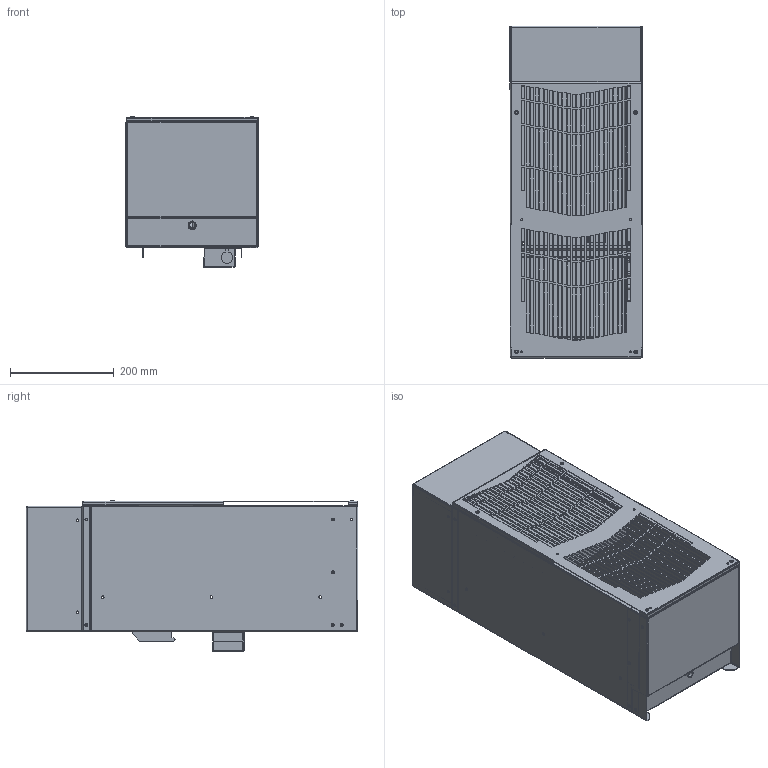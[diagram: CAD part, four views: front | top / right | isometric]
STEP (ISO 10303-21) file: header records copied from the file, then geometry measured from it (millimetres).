
FILE_DESCRIPTION (( 'STEP AP203' ), '1' );
FILE_NAME ('n160246g05x.STEP', '2017-06-14T15:47:41', ( '' ), ( '' ), 'SwSTEP 2.0', 'SolidWorks 2014', '' );
FILE_SCHEMA (( 'CONFIG_CONTROL_DESIGN' ));
Length unit declared in the file: inch
Products named in the file (22): 89112104; n160246g05x; 20-1037-00; 89112103; 89105056; 89109504; 89087520; 10-1044-12; 89112106; 89109505; 89112102; 89112105; 89112099; 89095669_89095669; 89050853; H60632004EB; 10-1015-208_PEM CLSS-024-1 ---N; 89135056; 89112098; 89112101; 89119932; 89105431
Assembly tree (32 placements, depth 3):
  n160246g05x
    89112101
      89112102
      89095669_89095669
      10-1015-208_PEM CLSS-024-1 ---N  x3
    89112103
      89112104
      89095669_89095669
      10-1015-208_PEM CLSS-024-1 ---N  x3
    89109505
      89109504
      10-1044-12
    89112098
      89112099
      H60632004EB  x4
    89105431
    20-1037-00
    89105056
    89087520
    89112105
      89112106
      89095669_89095669  x2
    89050853
    89135056
    89119932
Bounding box: 255.35 x 638.81 x 290.53 mm (x, y, z)
Volume: 4119983.3 mm3; surface area: 2176457.5 mm2
Topology: 31 solids, 31 shells, 3639 faces, 9793 edges, 6266 vertices
Faces by surface type: plane 2173, cylinder 1104, torus 180, cone 146, bspline 36
Entity records: 98879 total; most frequent: CARTESIAN_POINT 17986, DIRECTION 16359, ORIENTED_EDGE 16124, EDGE_CURVE 8062, VECTOR 5499, LINE 5499, AXIS2_PLACEMENT_3D 5430, VERTEX_POINT 5145
